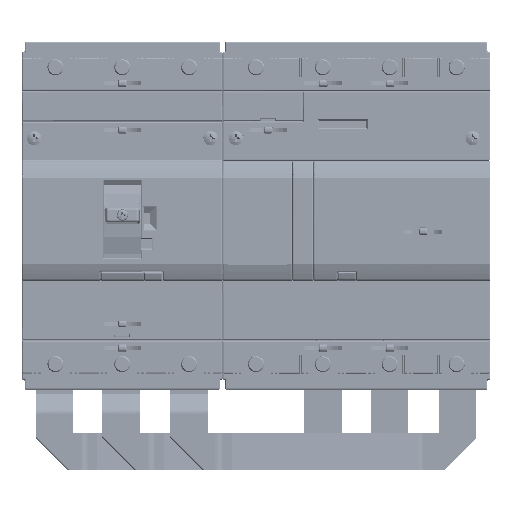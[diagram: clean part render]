
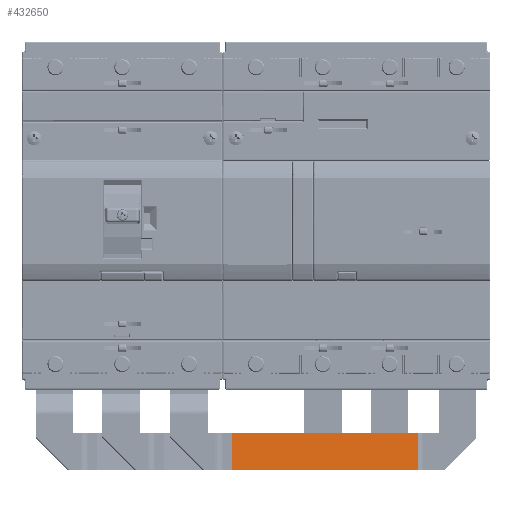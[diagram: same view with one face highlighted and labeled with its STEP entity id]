
A CAD part, top view. The second image highlights one B-rep face of the part: STEP entity #432650.
In plain terms, the highlighted planar face has unit normal (0.174, 0, 0.985).
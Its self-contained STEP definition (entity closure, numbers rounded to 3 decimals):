
#36540 = EDGE_LOOP ( 'NONE', ( #299496, #299498, #299501, #299504 ) ) ;
#76175 = PLANE ( 'NONE',  #77771 ) ;
#76222 = FACE_OUTER_BOUND ( 'NONE', #36540, .T. ) ;
#76258 = CARTESIAN_POINT ( 'NONE',  ( -9.581, -63.862, -22.411 ) ) ;
#76260 = DIRECTION ( 'NONE',  ( -0.174, 0., -0.985 ) ) ;
#76263 = DIRECTION ( 'NONE',  ( -0.985, 0., 0.174 ) ) ;
#77771 = AXIS2_PLACEMENT_3D ( 'NONE', #76258, #76260, #76263 ) ;
#261323 = VECTOR ( 'NONE', #283750, 1000. ) ;
#261327 = VECTOR ( 'NONE', #283664, 1000. ) ;
#261330 = VECTOR ( 'NONE', #283738, 1000. ) ;
#261336 = VECTOR ( 'NONE', #283769, 1000. ) ;
#283652 = LINE ( 'NONE', #283659, #261327 ) ;
#283659 = CARTESIAN_POINT ( 'NONE',  ( 59.986, -63.862, -34.678 ) ) ;
#283664 = DIRECTION ( 'NONE',  ( 0., -1., 0. ) ) ;
#283701 = LINE ( 'NONE', #283741, #261323 ) ;
#283726 = LINE ( 'NONE', #283734, #261330 ) ;
#283734 = CARTESIAN_POINT ( 'NONE',  ( 59.986, -49.862, -34.678 ) ) ;
#283738 = DIRECTION ( 'NONE',  ( -0.985, 0., 0.174 ) ) ;
#283741 = CARTESIAN_POINT ( 'NONE',  ( -9.581, -63.862, -22.411 ) ) ;
#283750 = DIRECTION ( 'NONE',  ( 0., -1., 0. ) ) ;
#283755 = LINE ( 'NONE', #283764, #261336 ) ;
#283764 = CARTESIAN_POINT ( 'NONE',  ( -9.581, -63.862, -22.411 ) ) ;
#283769 = DIRECTION ( 'NONE',  ( 0.985, 0., -0.174 ) ) ;
#299496 = ORIENTED_EDGE ( 'NONE', *, *, #495833, .T. ) ;
#299498 = ORIENTED_EDGE ( 'NONE', *, *, #495836, .T. ) ;
#299501 = ORIENTED_EDGE ( 'NONE', *, *, #495842, .T. ) ;
#299504 = ORIENTED_EDGE ( 'NONE', *, *, #495823, .F. ) ;
#363733 = CARTESIAN_POINT ( 'NONE',  ( -9.581, -49.862, -22.411 ) ) ;
#363763 = CARTESIAN_POINT ( 'NONE',  ( 59.986, -63.862, -34.678 ) ) ;
#366275 = CARTESIAN_POINT ( 'NONE',  ( 59.986, -49.862, -34.678 ) ) ;
#366980 = CARTESIAN_POINT ( 'NONE',  ( -9.581, -63.862, -22.411 ) ) ;
#432650 = ADVANCED_FACE ( 'NONE', ( #76222 ), #76175, .F. ) ;
#452121 = VERTEX_POINT ( 'NONE', #363733 ) ;
#452163 = VERTEX_POINT ( 'NONE', #363763 ) ;
#455070 = VERTEX_POINT ( 'NONE', #366275 ) ;
#455788 = VERTEX_POINT ( 'NONE', #366980 ) ;
#495823 = EDGE_CURVE ( 'NONE', #455070, #452163, #283652, .T. ) ;
#495833 = EDGE_CURVE ( 'NONE', #455070, #452121, #283726, .T. ) ;
#495836 = EDGE_CURVE ( 'NONE', #452121, #455788, #283701, .T. ) ;
#495842 = EDGE_CURVE ( 'NONE', #455788, #452163, #283755, .T. ) ;
